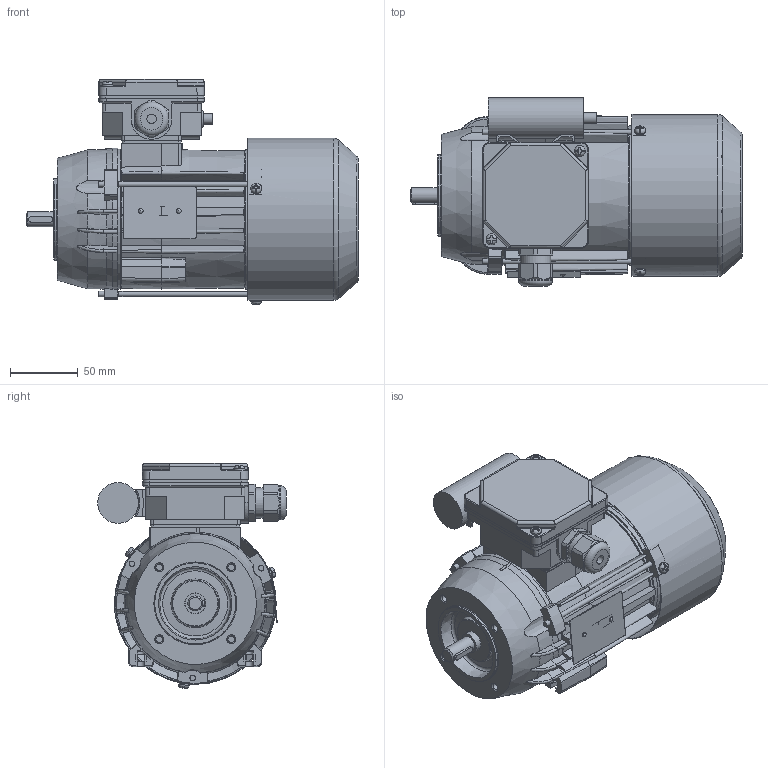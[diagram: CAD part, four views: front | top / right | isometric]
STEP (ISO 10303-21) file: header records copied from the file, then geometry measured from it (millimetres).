
FILE_DESCRIPTION(/* description */ ('Unknown'),/* implementation_level */ '2;1');
FILE_NAME(/* name */ '3SSIEK63-4B2',/* time_stamp */ '2024-06-17T11:33:42+02:00',/* author */ ('Unknown'),/* organization */ ('Unknown'),/* preprocessor_version */ 'ST-DEVELOPER v16.7',/* originating_system */ 'Solid Edge',/* authorisation */ 'Unknown');
FILE_SCHEMA (('AUTOMOTIVE_DESIGN {1 0 10303 214 3 1 1}'));
Length unit declared in the file: millimetre
Products named in the file (1): Czêœæ16
Bounding box: 244.47 x 138.82 x 165.7 mm (x, y, z)
Volume: 592427.7 mm3; surface area: 349133.1 mm2
Topology: 2 solids, 2 shells, 2009 faces, 5641 edges, 3630 vertices
Faces by surface type: plane 957, cylinder 534, bspline 195, cone 158, torus 136, sphere 29
Full cylindrical faces by diameter (mm): 2 x1, 2.4 x2, 3 x1, 3.7 x7, 3.8 x1, 4 x8, 4.5 x5, 4.6 x1, 4.8 x2, 5 x10, 6.5 x1, 7 x4, 7.998 x1, 8 x6, 10.998 x1, 12.897 x1, 13.097 x1, 14.997 x2, 15.4 x2, 18.996 x2, 19.496 x1, 19.996 x1, 20.096 x1, 21.516 x4, 22.3 x1, 25 x1, 28 x2, 28.48 x4, 29.994 x1, 31 x2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
Entity records: 82961 total; most frequent: CARTESIAN_POINT 20142, ORIENTED_EDGE 10556, DIRECTION 9492, EDGE_CURVE 5278, AXIS2_PLACEMENT_3D 3554, VERTEX_POINT 3503, FACE_BOUND 2411, EDGE_LOOP 2407
